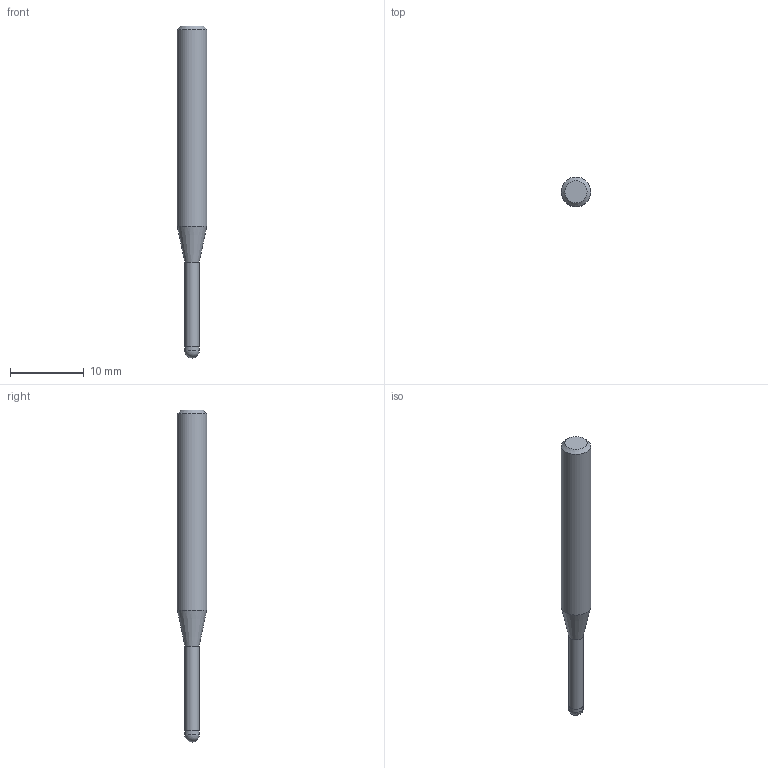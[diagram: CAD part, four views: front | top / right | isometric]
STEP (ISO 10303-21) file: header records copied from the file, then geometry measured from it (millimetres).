
FILE_DESCRIPTION((''),'2;1');
FILE_NAME('C:\Users\nsx150\AppData\Local\Temp\Mastercam 2021\3SYKECWX22\TEMP.step','2021-04-22T10:04:10',(''),(''),'STEP Write','Mastercam 2021 ... CNC Software, Inc.','');
FILE_SCHEMA(('AUTOMOTIVE_DESIGN'));
Length unit declared in the file: millimetre
Products named in the file (1): None
Bounding box: 4 x 4 x 45 mm (x, y, z)
Volume: 412.4 mm3; surface area: 481.6 mm2
Topology: 2 solids, 2 shells, 9 faces, 14 edges, 8 vertices
Faces by surface type: plane 3, cylinder 3, cone 2, sphere 1
Full cylindrical faces by diameter (mm): 1.94 x1, 2 x1, 4 x1
Entity records: 211 total; most frequent: DIRECTION 36, CARTESIAN_POINT 25, AXIS2_PLACEMENT_3D 18, ORIENTED_EDGE 14, EDGE_LOOP 14, STYLED_ITEM 12, ADVANCED_FACE 9, FACE_BOUND 8
